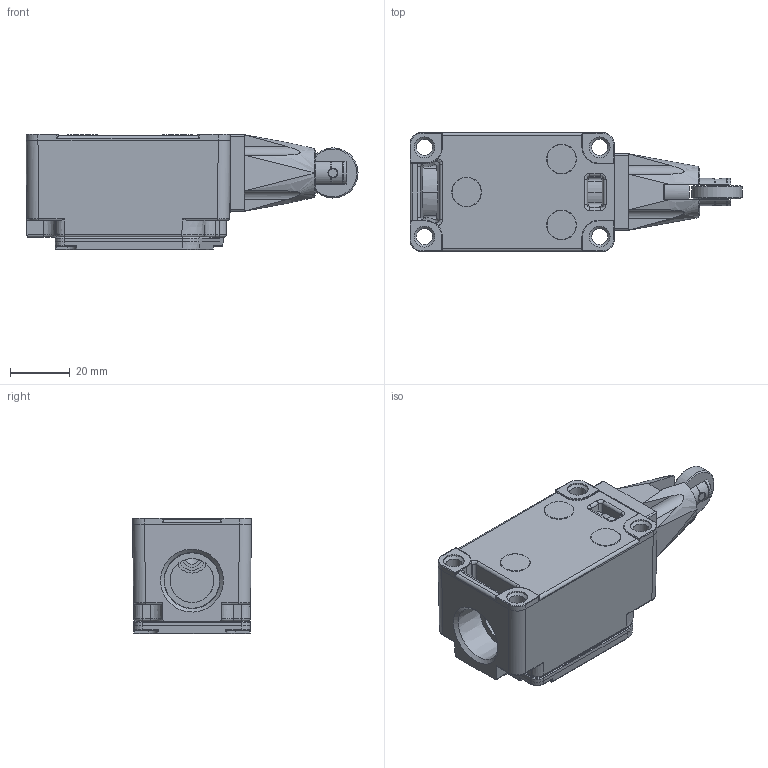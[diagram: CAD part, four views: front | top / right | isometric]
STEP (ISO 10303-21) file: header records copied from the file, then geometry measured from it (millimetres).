
FILE_DESCRIPTION(('FreeCAD Model'),'2;1');
FILE_NAME('Open CASCADE Shape Model','2026-09-09T09:14:36',(''),(''), 'Open CASCADE STEP processor 7.8','FreeCAD','Unknown');
FILE_SCHEMA(('AUTOMOTIVE_DESIGN { 1 0 10303 214 1 1 1 1 }'));
Length unit declared in the file: millimetre
Products named in the file (7): FM5103; 1; 2; 3; 4; 5; 6
Assembly tree (6 placements, depth 2):
  FM5103
    1
    2
    3
    4
    5
    6
Bounding box: 111.17 x 39.83 x 38.77 mm (x, y, z)
Volume: 54874.9 mm3; surface area: 32978.6 mm2
Topology: 6 solids, 6 shells, 591 faces, 1440 edges, 890 vertices
Faces by surface type: cylinder 222, plane 196, cone 62, bspline 57, torus 48, sphere 6
Full cylindrical faces by diameter (mm): 1.5 x1, 2.4 x1, 2.5 x5, 2.687 x3, 3.2 x1, 3.3 x3, 3.394 x2, 3.402 x1, 4 x4, 4.221 x3, 4.379 x3, 5 x1, 5.4 x4, 5.7 x2, 6.9 x1, 6.966 x4, 8.9 x1, 9.2 x2, 9.952 x3, 11.5 x1, 12.4 x1, 14.1 x1, 14.689 x1, 16.8 x1
Entity records: 19484 total; most frequent: CARTESIAN_POINT 5663, ORIENTED_EDGE 2876, DIRECTION 2843, EDGE_CURVE 1438, AXIS2_PLACEMENT_3D 1129, VERTEX_POINT 890, FACE_BOUND 657, EDGE_LOOP 657
